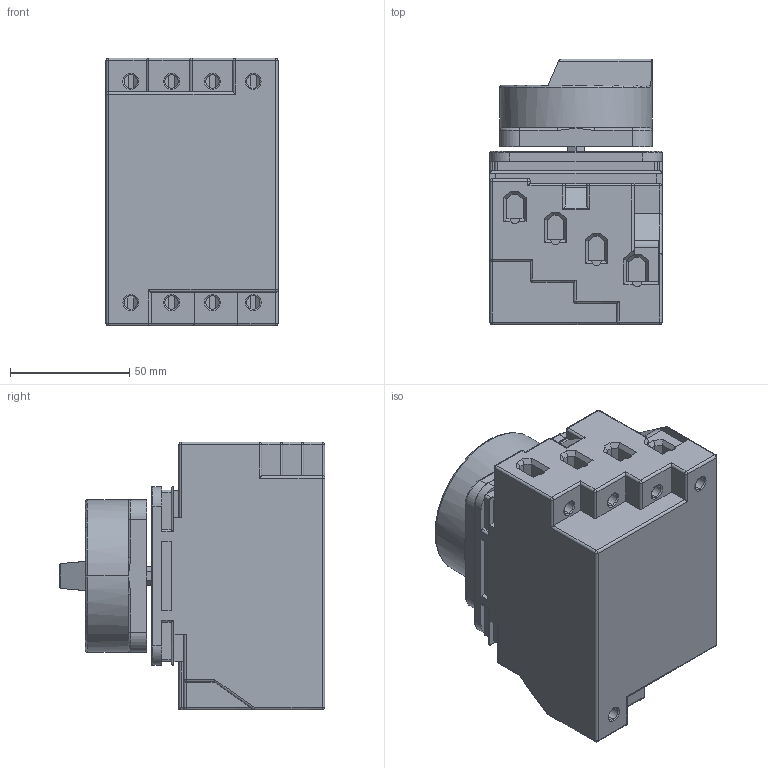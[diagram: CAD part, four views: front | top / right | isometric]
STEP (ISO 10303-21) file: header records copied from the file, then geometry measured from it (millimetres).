
FILE_DESCRIPTION (( 'STEP AP203' ), '1' );
FILE_NAME ('LS55 EH4 A4.STEP', '2014-07-23T05:03:24', ( 'edv' ), ( '' ), 'SwSTEP 2.0', 'SolidWorks 2014', '' );
FILE_SCHEMA (( 'CONFIG_CONTROL_DESIGN' ));
Length unit declared in the file: millimetre
Products named in the file (3): LS55 EH4 A4; Dummie Schalterkörper LS55_E; SV4_64x64
Assembly tree (2 placements, depth 2):
  LS55 EH4 A4
    Dummie Schalterkörper LS55_E
    SV4_64x64
Bounding box: 72.1 x 111.3 x 112.2 mm (x, y, z)
Volume: 575060.8 mm3; surface area: 67778.4 mm2
Topology: 2 solids, 2 shells, 447 faces, 1138 edges, 672 vertices
Faces by surface type: plane 248, cylinder 141, torus 28, sphere 20, bspline 10
Entity records: 13665 total; most frequent: CARTESIAN_POINT 2849, ORIENTED_EDGE 2220, DIRECTION 2180, EDGE_CURVE 1110, LINE 742, VECTOR 742, AXIS2_PLACEMENT_3D 719, VERTEX_POINT 672
